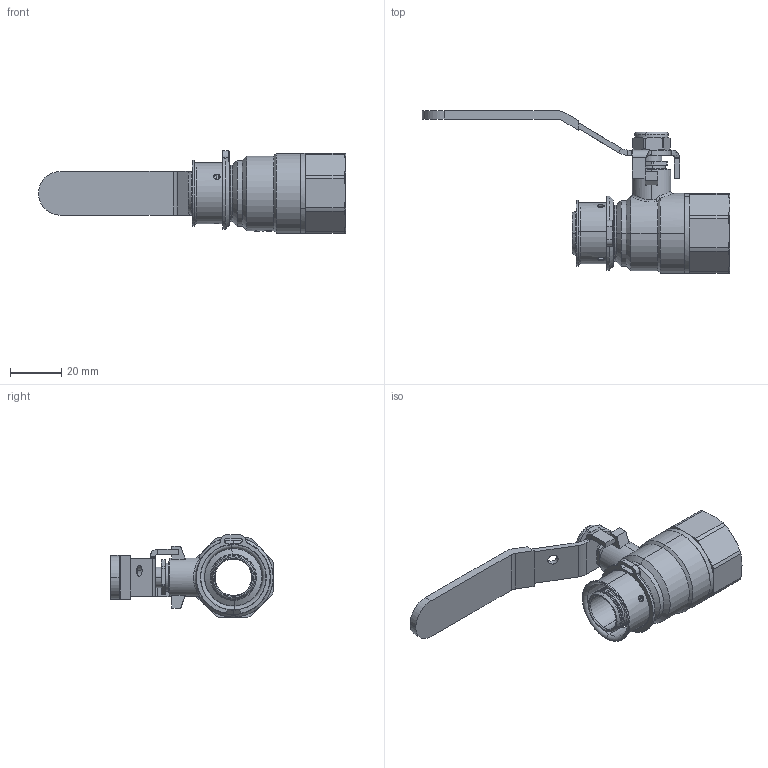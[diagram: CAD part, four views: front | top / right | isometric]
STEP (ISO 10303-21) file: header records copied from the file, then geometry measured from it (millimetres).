
FILE_DESCRIPTION (( 'STEP AP203' ), '1' );
FILE_NAME ('150-724G.STEP', '2026-05-15T01:56:45', ( '' ), ( '' ), 'SwSTEP 2.0', 'SolidWorks 2014', '' );
FILE_SCHEMA (( 'CONFIG_CONTROL_DESIGN' ));
Length unit declared in the file: millimetre
Products named in the file (13): 29概裝; 3347塑料限位圈075; 5x1.5(O型圈); 2PP075囀蹟恇裔; 21密封圈; M12ѹñ; 150-724G; 050忒梟; 075詩杶; 11沓蹋; M8滅侂蹟譫; 075概极; 24.5球
Assembly tree (13 placements, depth 2):
  150-724G
    11沓蹋
    24.5球
    29概裝
    5x1.5(O型圈)
    3347塑料限位圈075
    M8滅侂蹟譫
    M12ѹñ
    075概极
    21密封圈  x2
    050忒梟
    075詩杶
    2PP075囀蹟恇裔
Bounding box: 119.5 x 63.16 x 32.01 mm (x, y, z)
Volume: 28000.8 mm3; surface area: 28340.7 mm2
Topology: 13 solids, 13 shells, 666 faces, 1687 edges, 1056 vertices
Faces by surface type: cylinder 231, plane 172, cone 113, bspline 90, torus 54, sphere 6
Entity records: 46106 total; most frequent: CARTESIAN_POINT 29973, ORIENTED_EDGE 3302, DIRECTION 2867, EDGE_CURVE 1651, AXIS2_PLACEMENT_3D 1146, VERTEX_POINT 1036, EDGE_LOOP 701, FACE_OUTER_BOUND 654
